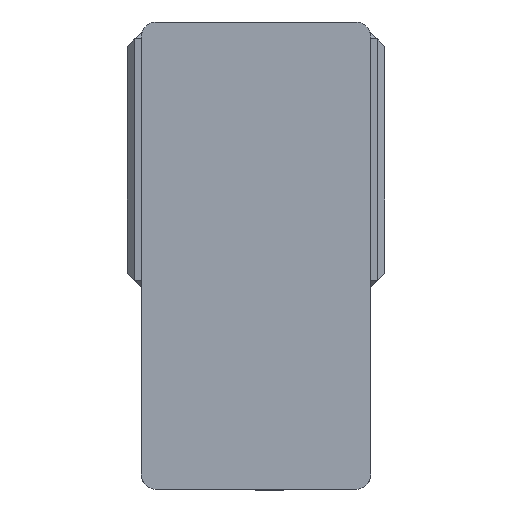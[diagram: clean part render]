
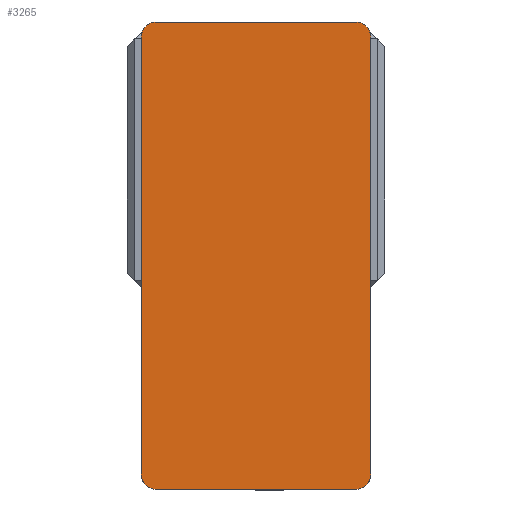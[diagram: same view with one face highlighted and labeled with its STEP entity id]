
A CAD part, left-side view. The second image highlights one B-rep face of the part: STEP entity #3265.
In plain terms, the highlighted planar face has unit normal (-1, 0, 0) as drawn and (0, 0, 1) by its records, which use the part's own axes.
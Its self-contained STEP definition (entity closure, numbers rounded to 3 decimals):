
#436 = VERTEX_POINT ( 'NONE', #21793 ) ;
#736 = ORIENTED_EDGE ( 'NONE', *, *, #11756, .T. ) ;
#1526 = CARTESIAN_POINT ( 'NONE',  ( -75., -142.5, 105. ) ) ;
#2032 = ORIENTED_EDGE ( 'NONE', *, *, #19556, .T. ) ;
#3218 = DIRECTION ( 'NONE',  ( 0., 0., 1. ) ) ;
#3251 = AXIS2_PLACEMENT_3D ( 'NONE', #9431, #21668, #11190 ) ;
#3265 = ADVANCED_FACE ( 'NONE', ( #21198 ), #15617, .T. ) ;
#3459 = VECTOR ( 'NONE', #18458, 1000. ) ;
#3609 = VECTOR ( 'NONE', #17817, 1000. ) ;
#3691 = VECTOR ( 'NONE', #8117, 1000. ) ;
#4036 = LINE ( 'NONE', #18220, #3459 ) ;
#4411 = CARTESIAN_POINT ( 'NONE',  ( 65., -142.5, 105. ) ) ;
#4789 = CARTESIAN_POINT ( 'NONE',  ( 75., 152.5, 105. ) ) ;
#5169 = DIRECTION ( 'NONE',  ( 1., 0., 0. ) ) ;
#5185 = ORIENTED_EDGE ( 'NONE', *, *, #13799, .T. ) ;
#5325 = VERTEX_POINT ( 'NONE', #1526 ) ;
#5570 = CIRCLE ( 'NONE', #3251, 10. ) ;
#5724 = ORIENTED_EDGE ( 'NONE', *, *, #20719, .T. ) ;
#6202 = DIRECTION ( 'NONE',  ( 1., 0., 0. ) ) ;
#6309 = AXIS2_PLACEMENT_3D ( 'NONE', #13829, #3218, #15584 ) ;
#6451 = VERTEX_POINT ( 'NONE', #10889 ) ;
#8117 = DIRECTION ( 'NONE',  ( 0., -1., 0. ) ) ;
#8355 = DIRECTION ( 'NONE',  ( 0., 1., 0. ) ) ;
#8365 = LINE ( 'NONE', #10757, #3609 ) ;
#8416 = DIRECTION ( 'NONE',  ( 0., 0., 1. ) ) ;
#9000 = LINE ( 'NONE', #13425, #3691 ) ;
#9431 = CARTESIAN_POINT ( 'NONE',  ( 65., 142.5, 105. ) ) ;
#10033 = AXIS2_PLACEMENT_3D ( 'NONE', #17411, #15685, #5169 ) ;
#10757 = CARTESIAN_POINT ( 'NONE',  ( -75., -152.5, 105. ) ) ;
#10852 = EDGE_LOOP ( 'NONE', ( #17748, #2032, #736, #21647, #5185, #5724, #20849, #20049 ) ) ;
#10889 = CARTESIAN_POINT ( 'NONE',  ( -75., 142.5, 105. ) ) ;
#11190 = DIRECTION ( 'NONE',  ( 1., 0., 0. ) ) ;
#11471 = CARTESIAN_POINT ( 'NONE',  ( 65., -152.5, 105. ) ) ;
#11592 = VERTEX_POINT ( 'NONE', #16807 ) ;
#11756 = EDGE_CURVE ( 'NONE', #15365, #436, #13474, .T. ) ;
#12767 = AXIS2_PLACEMENT_3D ( 'NONE', #18944, #8416, #20684 ) ;
#12922 = VECTOR ( 'NONE', #8355, 1000. ) ;
#13282 = CIRCLE ( 'NONE', #12767, 10. ) ;
#13425 = CARTESIAN_POINT ( 'NONE',  ( -75., 152.5, 105. ) ) ;
#13474 = LINE ( 'NONE', #4789, #12922 ) ;
#13633 = AXIS2_PLACEMENT_3D ( 'NONE', #4411, #16739, #6202 ) ;
#13799 = EDGE_CURVE ( 'NONE', #14233, #14739, #4036, .T. ) ;
#13829 = CARTESIAN_POINT ( 'NONE',  ( -65., -142.5, 105. ) ) ;
#14233 = VERTEX_POINT ( 'NONE', #22508 ) ;
#14739 = VERTEX_POINT ( 'NONE', #14761 ) ;
#14761 = CARTESIAN_POINT ( 'NONE',  ( -65., 152.5, 105. ) ) ;
#14946 = CIRCLE ( 'NONE', #13633, 10. ) ;
#15365 = VERTEX_POINT ( 'NONE', #21410 ) ;
#15584 = DIRECTION ( 'NONE',  ( 1., 0., 0. ) ) ;
#15617 = PLANE ( 'NONE',  #10033 ) ;
#15685 = DIRECTION ( 'NONE',  ( 0., 0., 1. ) ) ;
#16456 = EDGE_CURVE ( 'NONE', #6451, #5325, #9000, .T. ) ;
#16739 = DIRECTION ( 'NONE',  ( 0., 0., 1. ) ) ;
#16807 = CARTESIAN_POINT ( 'NONE',  ( -65., -152.5, 105. ) ) ;
#17411 = CARTESIAN_POINT ( 'NONE',  ( 0., 0., 105. ) ) ;
#17748 = ORIENTED_EDGE ( 'NONE', *, *, #19259, .T. ) ;
#17817 = DIRECTION ( 'NONE',  ( 1., 0., 0. ) ) ;
#17847 = VERTEX_POINT ( 'NONE', #11471 ) ;
#18220 = CARTESIAN_POINT ( 'NONE',  ( -75., 152.5, 105. ) ) ;
#18458 = DIRECTION ( 'NONE',  ( -1., 0., 0. ) ) ;
#18491 = CIRCLE ( 'NONE', #6309, 10. ) ;
#18944 = CARTESIAN_POINT ( 'NONE',  ( -65., 142.5, 105. ) ) ;
#19259 = EDGE_CURVE ( 'NONE', #11592, #17847, #8365, .T. ) ;
#19556 = EDGE_CURVE ( 'NONE', #17847, #15365, #14946, .T. ) ;
#20049 = ORIENTED_EDGE ( 'NONE', *, *, #21573, .T. ) ;
#20425 = EDGE_CURVE ( 'NONE', #436, #14233, #5570, .T. ) ;
#20684 = DIRECTION ( 'NONE',  ( 1., 0., 0. ) ) ;
#20719 = EDGE_CURVE ( 'NONE', #14739, #6451, #13282, .T. ) ;
#20849 = ORIENTED_EDGE ( 'NONE', *, *, #16456, .T. ) ;
#21198 = FACE_OUTER_BOUND ( 'NONE', #10852, .T. ) ;
#21410 = CARTESIAN_POINT ( 'NONE',  ( 75., -142.5, 105. ) ) ;
#21573 = EDGE_CURVE ( 'NONE', #5325, #11592, #18491, .T. ) ;
#21647 = ORIENTED_EDGE ( 'NONE', *, *, #20425, .T. ) ;
#21668 = DIRECTION ( 'NONE',  ( 0., 0., 1. ) ) ;
#21793 = CARTESIAN_POINT ( 'NONE',  ( 75., 142.5, 105. ) ) ;
#22508 = CARTESIAN_POINT ( 'NONE',  ( 65., 152.5, 105. ) ) ;
